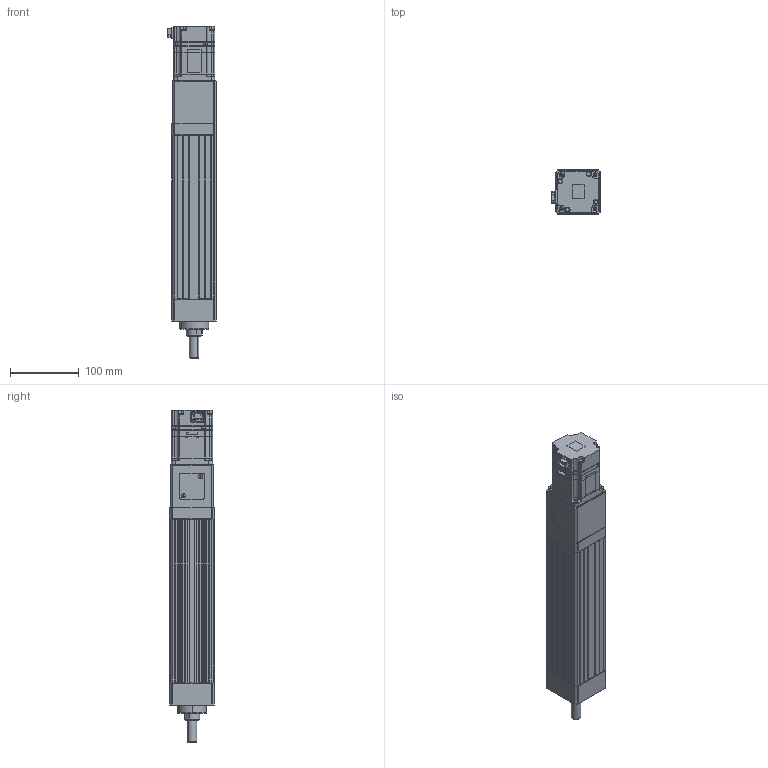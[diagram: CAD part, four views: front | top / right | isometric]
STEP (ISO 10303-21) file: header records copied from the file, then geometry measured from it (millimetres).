
FILE_DESCRIPTION (( 'STEP AP203' ), '1' );
FILE_NAME ('ANS065-S150-05(10)-W20-M.STEP', '2019-03-03T05:49:01', ( 'user' ), ( '' ), 'SwSTEP 2.0', 'SolidWorks 2013', '' );
FILE_SCHEMA (( 'CONFIG_CONTROL_DESIGN' ));
Length unit declared in the file: millimetre
Products named in the file (4): ANS065 S150 VER2; sgmjv_02a_a21; ANS065 ROD ST150-M; ANS065-S150-05(10)-W20-M
Assembly tree (3 placements, depth 2):
  ANS065-S150-05(10)-W20-M
    ANS065 S150 VER2
    sgmjv_02a_a21
    ANS065 ROD ST150-M
Bounding box: 71.3 x 65 x 484.6 mm (x, y, z)
Volume: 1158360.3 mm3; surface area: 257349.6 mm2
Topology: 3 solids, 7 shells, 1081 faces, 2861 edges, 1841 vertices
Faces by surface type: plane 637, cylinder 358, cone 86
Entity records: 33609 total; most frequent: CARTESIAN_POINT 5983, DIRECTION 5713, ORIENTED_EDGE 5674, EDGE_CURVE 2837, VECTOR 2007, LINE 2007, AXIS2_PLACEMENT_3D 1853, VERTEX_POINT 1841
